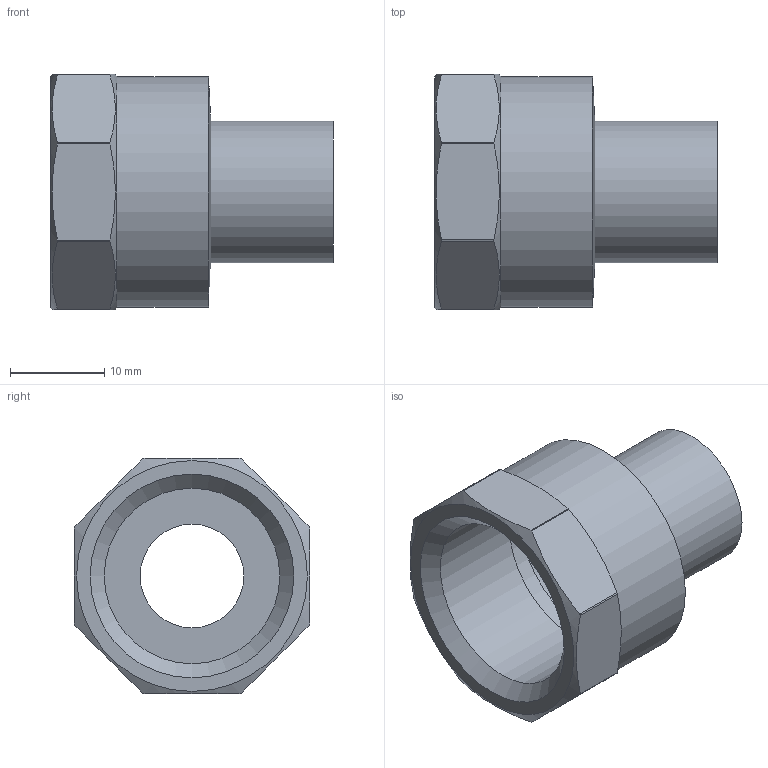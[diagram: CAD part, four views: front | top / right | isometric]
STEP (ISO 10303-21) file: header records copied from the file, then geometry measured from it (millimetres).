
FILE_DESCRIPTION((''),'2;1');
FILE_NAME('\\lg50001\SANHA_Legnica\Engineering\Public\RYSUNKI\SANHA POLSKA\4246G\step\14246_15-12(2).stp','2012-06-21T14:27:05',('pajchrowski'),(''),'Autodesk Inventor 2009','Autodesk Inventor 2009','');
FILE_SCHEMA(('AUTOMOTIVE_DESIGN { 1 0 10303 214 1 1 1 1 }'));
Length unit declared in the file: millimetre
Products named in the file (1): 14246_15-12(2)
Bounding box: 30 x 25 x 25 mm (x, y, z)
Volume: 4681.5 mm3; surface area: 4214.3 mm2
Topology: 1 solids, 1 shells, 30 faces, 74 edges, 47 vertices
Faces by surface type: cylinder 13, plane 11, cone 5, torus 1
Full cylindrical faces by diameter (mm): 11 x1, 15 x1, 18.631 x1, 20.955 x1, 24.5 x1
Entity records: 832 total; most frequent: CARTESIAN_POINT 169, DIRECTION 136, ORIENTED_EDGE 122, EDGE_CURVE 61, AXIS2_PLACEMENT_3D 60, VERTEX_POINT 45, EDGE_LOOP 44, FACE_OUTER_BOUND 30
